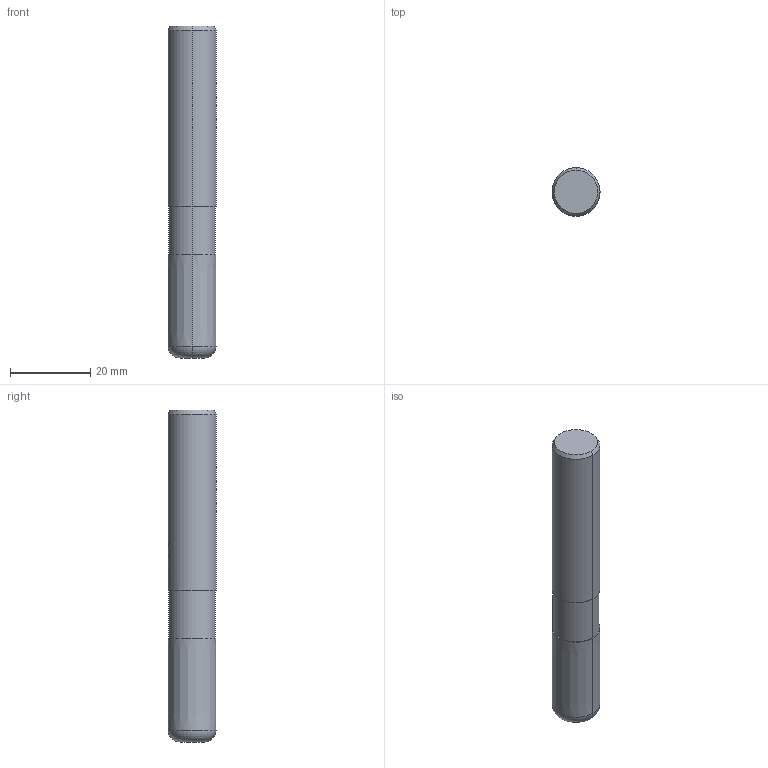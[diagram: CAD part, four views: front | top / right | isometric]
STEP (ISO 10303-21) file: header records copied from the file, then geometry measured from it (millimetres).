
FILE_DESCRIPTION(('no description'),'unknown implementation level');
FILE_NAME('solidarr2VTooP_T9ttwkmCuYiqQBY_c_1.STP',' ',('CIMSOURCE GmbH'),('CADClick - KiM GmbH - www.kimweb.de'),'unknown preprocess','ACIS','unknown authorization');
FILE_SCHEMA(('automotive_design'));
Length unit declared in the file: millimetre
Products named in the file (2): 1; 2
Bounding box: 12 x 12 x 83 mm (x, y, z)
Volume: 9244.1 mm3; surface area: 3502.9 mm2
Topology: 2 solids, 2 shells, 29 faces, 71 edges, 46 vertices
Faces by surface type: plane 12, cylinder 11, cone 4, torus 2
Entity records: 1997 total; most frequent: CARTESIAN_POINT 431, DIRECTION 152, STYLED_ITEM 148, PRESENTATION_STYLE_ASSIGNMENT 148, COLOUR_RGB 148, ORIENTED_EDGE 142, EDGE_CURVE 71, CURVE_STYLE 71
